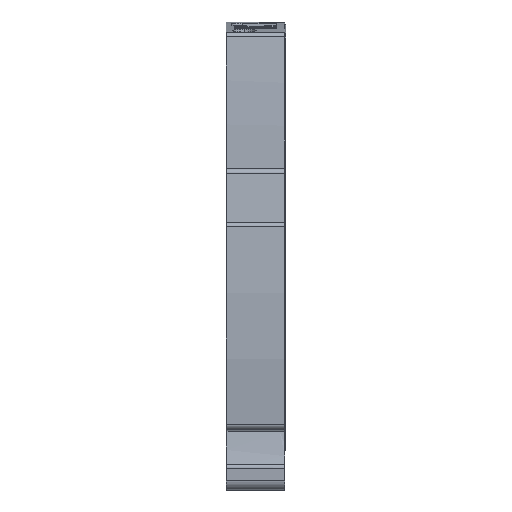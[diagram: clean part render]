
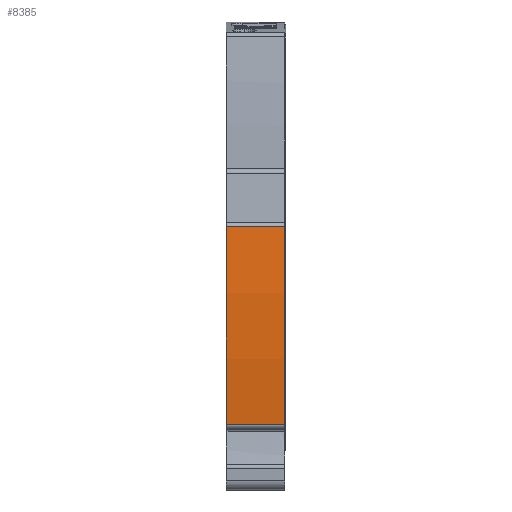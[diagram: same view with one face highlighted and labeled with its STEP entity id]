
A CAD part, front view. The second image highlights one B-rep face of the part: STEP entity #8385.
In plain terms, the highlighted cylindrical face has radius 202 mm (diameter 404 mm), a partial arc.
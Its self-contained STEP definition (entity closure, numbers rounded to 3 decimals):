
#544=AXIS2_PLACEMENT_3D('Circle Axis2P3D',#542,#543,$) ;
#5122=AXIS2_PLACEMENT_3D('Circle Axis2P3D',#5120,#5121,$) ;
#8372=AXIS2_PLACEMENT_3D('Cylinder Axis2P3D',#8369,#8370,#8371) ;
#539=CARTESIAN_POINT('Vertex',(11.95,0.609,53.828)) ;
#542=CARTESIAN_POINT('Axis2P3D Location',(11.95,202.,38.15)) ;
#546=CARTESIAN_POINT('Vertex',(11.95,1.531,13.327)) ;
#5117=CARTESIAN_POINT('Vertex',(0.,1.531,13.327)) ;
#5120=CARTESIAN_POINT('Axis2P3D Location',(0.,202.,38.15)) ;
#5124=CARTESIAN_POINT('Vertex',(0.,0.609,53.828)) ;
#8355=CARTESIAN_POINT('Line Origine',(6.,0.609,53.828)) ;
#8369=CARTESIAN_POINT('Axis2P3D Location',(6.,202.,38.15)) ;
#8374=CARTESIAN_POINT('Line Origine',(6.,1.531,13.327)) ;
#543=DIRECTION('Axis2P3D Direction',(1.,0.,0.)) ;
#5121=DIRECTION('Axis2P3D Direction',(1.,0.,0.)) ;
#8356=DIRECTION('Vector Direction',(1.,0.,0.)) ;
#8370=DIRECTION('Axis2P3D Direction',(1.,0.,0.)) ;
#8371=DIRECTION('Axis2P3D XDirection',(0.,-0.997,0.082)) ;
#8375=DIRECTION('Vector Direction',(1.,0.,0.)) ;
#8357=VECTOR('Line Direction',#8356,1.) ;
#8376=VECTOR('Line Direction',#8375,1.) ;
#8380=ORIENTED_EDGE('',*,*,#8378,.T.) ;
#8381=ORIENTED_EDGE('',*,*,#548,.F.) ;
#8382=ORIENTED_EDGE('',*,*,#8359,.F.) ;
#8383=ORIENTED_EDGE('',*,*,#5126,.T.) ;
#8385=ADVANCED_FACE('KLEMME',(#8384),#8373,.T.) ;
#545=CIRCLE('generated circle',#544,202.) ;
#5123=CIRCLE('generated circle',#5122,202.) ;
#8373=CYLINDRICAL_SURFACE('generated cylinder',#8372,202.) ;
#548=EDGE_CURVE('',#540,#547,#545,.T.) ;
#5126=EDGE_CURVE('',#5125,#5118,#5123,.T.) ;
#8359=EDGE_CURVE('',#5125,#540,#8358,.T.) ;
#8378=EDGE_CURVE('',#5118,#547,#8377,.T.) ;
#8379=EDGE_LOOP('',(#8380,#8381,#8382,#8383)) ;
#8384=FACE_OUTER_BOUND('',#8379,.T.) ;
#8358=LINE('Line',#8355,#8357) ;
#8377=LINE('Line',#8374,#8376) ;
#540=VERTEX_POINT('',#539) ;
#547=VERTEX_POINT('',#546) ;
#5118=VERTEX_POINT('',#5117) ;
#5125=VERTEX_POINT('',#5124) ;
